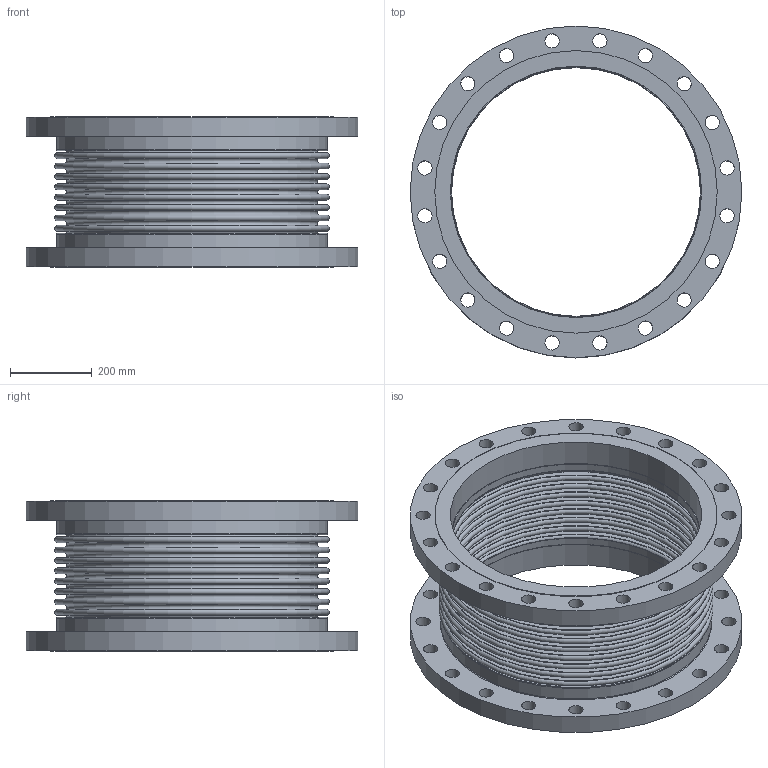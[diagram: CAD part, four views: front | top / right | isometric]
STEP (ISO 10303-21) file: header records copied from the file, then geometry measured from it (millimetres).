
FILE_DESCRIPTION(/* description */ ('EXPANSION JOINT,SINGLE, FLANGED ENDS,24 INCH','CAx-IF Rec.Pracs.---Representation and Presentation of Product Manufacturing Information (PMI)---4.0---2014-10-13'),/* implementation_level */ '2;1');
FILE_NAME(/* name */ 'US-24-8-150S-FLANGED ENDS.stp',/* time_stamp */ '2026-07-31T17:45:02-05:00',/* author */ ('Guadalupe'),/* organization */ (''),/* preprocessor_version */ 'ST-DEVELOPER v20.1',/* originating_system */ 'Autodesk Inventor 2026',/* authorisation */ '');
FILE_SCHEMA (('AP242_MANAGED_MODEL_BASED_3D_ENGINEERING_MIM_LF { 1 0 10303 442 2 1 4 }'));
Length unit declared in the file: inch
Products named in the file (3): 24-150S; 24-150S-02; 24-150S-01
Assembly tree (3 placements, depth 2):
  24-150S
    24-150S-02  x2
    24-150S-01
Bounding box: 812.8 x 812.8 x 368.3 mm (x, y, z)
Volume: 24104668.6 mm3; surface area: 4290394.6 mm2
Topology: 5 solids, 5 shells, 136 faces, 270 edges, 180 vertices
Faces by surface type: cylinder 52, plane 46, torus 38
Full cylindrical faces by diameter (mm): 34.925 x40, 609.6 x2, 612.648 x2, 615.95 x2, 663.702 x2, 692.15 x2, 812.8 x2
Entity records: 3026 total; most frequent: DIRECTION 606, CARTESIAN_POINT 449, ORIENTED_EDGE 384, AXIS2_PLACEMENT_3D 289, EDGE_CURVE 192, EDGE_LOOP 188, CIRCLE 164, VERTEX_POINT 128
